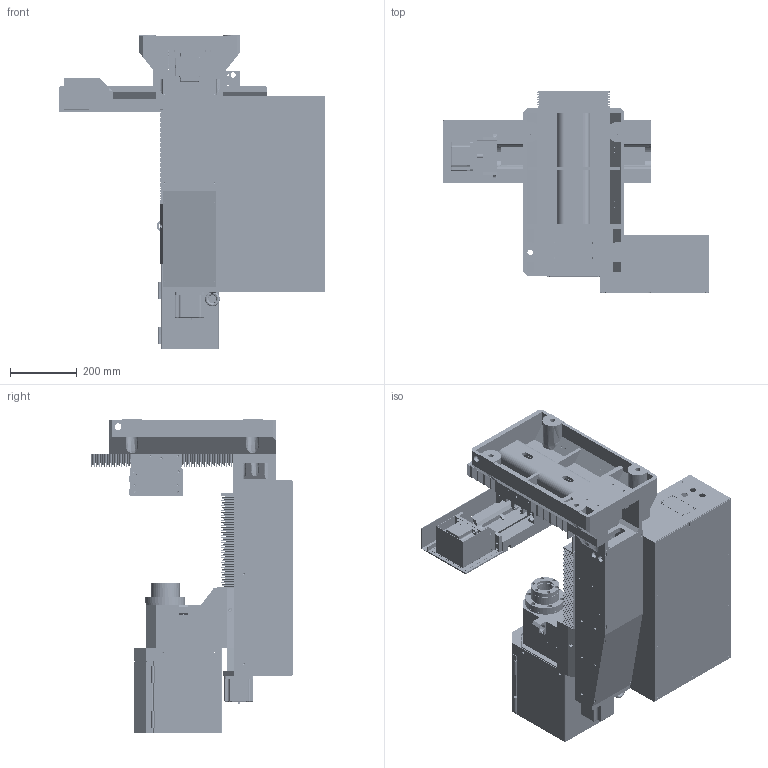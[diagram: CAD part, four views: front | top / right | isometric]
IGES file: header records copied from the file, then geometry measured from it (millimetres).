
Start section: SolidWorks IGES file using analytic representation for surfaces
Global section: file name: \\tormach-dc\Published Documents\Drawings\Files saved as other types\Solid_Models\MODELS FOR PUBLIC\35466 PCNC 440.IGS; native system: SolidWorks 2014; preprocessor: SolidWorks 2014; author: rtooley; date: 160429.094130; units: millimetre
Bounding box: 793.99 x 604 x 936 mm (x, y, z)
Surface area: 6574082 mm2 (no closed solid volume)
Topology: 0 solids, 0 shells, 4058 faces, 55223 edges, 55010 vertices
Faces by surface type: bspline 2353, revolution 1705
